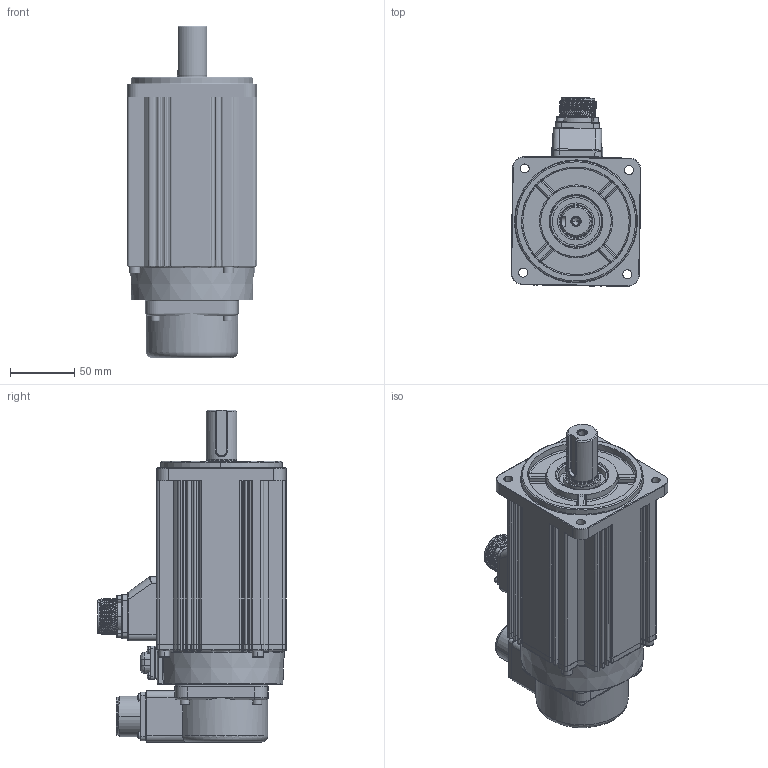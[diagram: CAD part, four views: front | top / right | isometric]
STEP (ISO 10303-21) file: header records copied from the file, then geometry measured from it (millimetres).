
FILE_DESCRIPTION((''),'2;1');
FILE_NAME('IMS20B-10M25C30C-00_ASM','2024-10-24T09:41:09',('0109067'),(''),'CREO PARAMETRIC BY PTC INC, 2019080','CREO PARAMETRIC BY PTC INC, 2019080','');
FILE_SCHEMA(('CONFIG_CONTROL_DESIGN'));
Products named in the file (20): 100_JIKE_25C_L80_2; 50051-00115_1; 18-A6-18FLANGE-CUSTOM-3D_1; ISO4762-M3X330-8_8_1; 100_DZZJ_25C_ASM_2_ASM; 100_25C_ZHOU_BZ_1; 100_HDG_BZ_1; 100_ZZZJ_25C_BZ_ASM_1_ASM; 100_FHZ_1; CMS3102A20-29PE9-A-3D_1; ISO7045-M3X16-4_8_1; ISO4762-M4X16-8_8_1; 100_FHZ_ASM_1_ASM; BAOZHA_MIFENGDIAN_1; BAOZHA_CHUXIANHE_1; M3X8-0001_1; ISO4762-M5X16-8_8_1; 13000_1; IMS20B-10M25C30C-BZ_ASM_3_ASM; IMS20B-10M25C30C-00_ASM
Assembly tree (34 placements, depth 4):
  IMS20B-10M25C30C-00_ASM
    IMS20B-10M25C30C-BZ_ASM_3_ASM
      100_DZZJ_25C_ASM_2_ASM
        100_JIKE_25C_L80_2
        50051-00115_1
        18-A6-18FLANGE-CUSTOM-3D_1
        ISO4762-M3X330-8_8_1  x4
      100_ZZZJ_25C_BZ_ASM_1_ASM
        100_25C_ZHOU_BZ_1
        100_HDG_BZ_1
      100_FHZ_ASM_1_ASM
        100_FHZ_1
        CMS3102A20-29PE9-A-3D_1
        ISO7045-M3X16-4_8_1  x4
        ISO4762-M4X16-8_8_1  x4
      BAOZHA_MIFENGDIAN_1
      BAOZHA_CHUXIANHE_1
      M3X8-0001_1  x4
      ISO4762-M5X16-8_8_1  x4
      13000_1
Bounding box: 101.25 x 147.41 x 259 mm (x, y, z)
Volume: 1773408.1 mm3; surface area: 218028.8 mm2
Topology: 30 solids, 74 shells, 4663 faces, 12665 edges, 8276 vertices
Faces by surface type: plane 2134, cylinder 1128, extrusion 812, torus 223, cone 152, bspline 135, sphere 79
Entity records: 152607 total; most frequent: CARTESIAN_POINT 47840, ORIENTED_EDGE 22802, DIRECTION 19288, EDGE_CURVE 11459, VERTEX_POINT 7559, VECTOR 7494, LINE 6682, AXIS2_PLACEMENT_3D 5897
